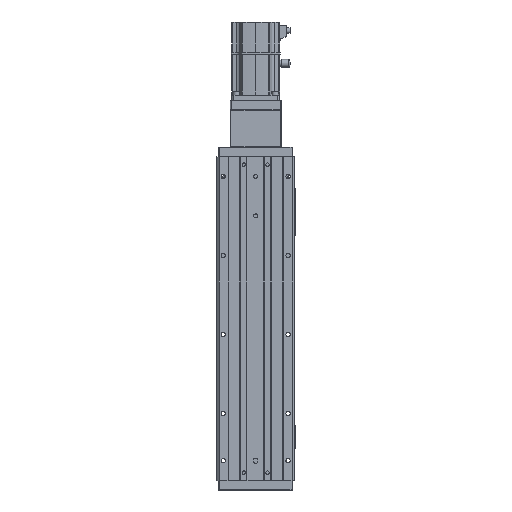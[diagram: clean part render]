
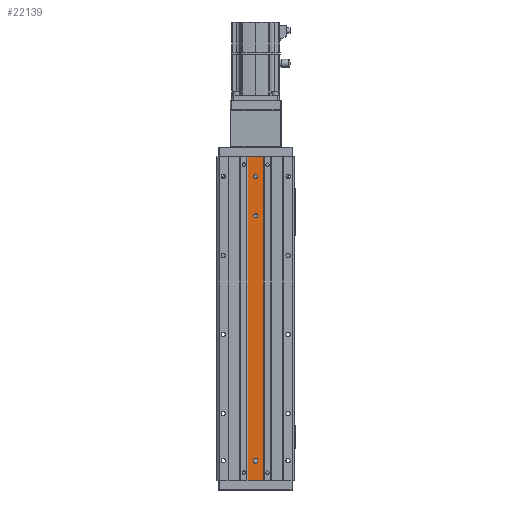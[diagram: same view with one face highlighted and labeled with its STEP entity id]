
A CAD part, front view. The second image highlights one B-rep face of the part: STEP entity #22139.
In plain terms, the highlighted planar face has unit normal (0, -1, 0).
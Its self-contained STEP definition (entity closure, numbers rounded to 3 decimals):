
#189 = AXIS2_PLACEMENT_3D ( 'NONE', #43877, #13458, #26986 ) ;
#298 = DIRECTION ( 'NONE',  ( 1., 0., 0. ) ) ;
#621 = EDGE_CURVE ( 'NONE', #31434, #11686, #38518, .T. ) ;
#899 = DIRECTION ( 'NONE',  ( -1., 0., 0. ) ) ;
#1019 = CARTESIAN_POINT ( 'NONE',  ( -2.5, 1., -179. ) ) ;
#1500 = EDGE_CURVE ( 'NONE', #39901, #11067, #28931, .T. ) ;
#1785 = CARTESIAN_POINT ( 'NONE',  ( 2.5, 1., -179. ) ) ;
#2295 = AXIS2_PLACEMENT_3D ( 'NONE', #20855, #34393, #3985 ) ;
#3206 = LINE ( 'NONE', #16747, #14287 ) ;
#3734 = ORIENTED_EDGE ( 'NONE', *, *, #16404, .T. ) ;
#3856 = CARTESIAN_POINT ( 'NONE',  ( -10., 1., -205. ) ) ;
#3985 = DIRECTION ( 'NONE',  ( 1., 0., 0. ) ) ;
#4248 = PLANE ( 'NONE',  #30568 ) ;
#4753 = ORIENTED_EDGE ( 'NONE', *, *, #38883, .F. ) ;
#5114 = DIRECTION ( 'NONE',  ( 0., -1., 0. ) ) ;
#6682 = EDGE_CURVE ( 'NONE', #27302, #13257, #24996, .T. ) ;
#7574 = FACE_BOUND ( 'NONE', #16453, .T. ) ;
#8722 = ORIENTED_EDGE ( 'NONE', *, *, #621, .F. ) ;
#9031 = CIRCLE ( 'NONE', #33830, 2.5 ) ;
#9937 = EDGE_CURVE ( 'NONE', #10236, #29854, #9031, .T. ) ;
#9997 = CARTESIAN_POINT ( 'NONE',  ( -2.5, 1., -181. ) ) ;
#10160 = ORIENTED_EDGE ( 'NONE', *, *, #9937, .F. ) ;
#10236 = VERTEX_POINT ( 'NONE', #36465 ) ;
#10559 = LINE ( 'NONE', #24082, #18317 ) ;
#11067 = VERTEX_POINT ( 'NONE', #35501 ) ;
#11686 = VERTEX_POINT ( 'NONE', #15405 ) ;
#11717 = ORIENTED_EDGE ( 'NONE', *, *, #1500, .T. ) ;
#11973 = CARTESIAN_POINT ( 'NONE',  ( 0., 1., 130. ) ) ;
#12087 = DIRECTION ( 'NONE',  ( 0., 0., 1. ) ) ;
#12122 = CARTESIAN_POINT ( 'NONE',  ( -10., 1., 205. ) ) ;
#13257 = VERTEX_POINT ( 'NONE', #34712 ) ;
#13439 = ORIENTED_EDGE ( 'NONE', *, *, #17443, .F. ) ;
#13458 = DIRECTION ( 'NONE',  ( 0., -1., 0. ) ) ;
#13641 = VECTOR ( 'NONE', #41529, 1000. ) ;
#14287 = VECTOR ( 'NONE', #30279, 1000. ) ;
#14440 = LINE ( 'NONE', #27956, #13641 ) ;
#14524 = CARTESIAN_POINT ( 'NONE',  ( 0., 1., -181. ) ) ;
#14562 = DIRECTION ( 'NONE',  ( 0., 0., -1. ) ) ;
#14837 = EDGE_CURVE ( 'NONE', #11686, #17325, #31439, .T. ) ;
#15005 = ORIENTED_EDGE ( 'NONE', *, *, #28151, .F. ) ;
#15405 = CARTESIAN_POINT ( 'NONE',  ( -2.5, 1., -179. ) ) ;
#16404 = EDGE_CURVE ( 'NONE', #11067, #34587, #3206, .T. ) ;
#16453 = EDGE_LOOP ( 'NONE', ( #26224, #10160 ) ) ;
#16747 = CARTESIAN_POINT ( 'NONE',  ( -10., 1., 205. ) ) ;
#17189 = CARTESIAN_POINT ( 'NONE',  ( 0., 1., 130. ) ) ;
#17325 = VERTEX_POINT ( 'NONE', #9997 ) ;
#17393 = DIRECTION ( 'NONE',  ( -1., 0., 0. ) ) ;
#17443 = EDGE_CURVE ( 'NONE', #13257, #27302, #21460, .T. ) ;
#17782 = CARTESIAN_POINT ( 'NONE',  ( -10., 1., -205. ) ) ;
#18317 = VECTOR ( 'NONE', #37625, 1000. ) ;
#18663 = DIRECTION ( 'NONE',  ( 1., 0., 0. ) ) ;
#19353 = ORIENTED_EDGE ( 'NONE', *, *, #6682, .F. ) ;
#20855 = CARTESIAN_POINT ( 'NONE',  ( 0., 1., 180. ) ) ;
#20876 = ORIENTED_EDGE ( 'NONE', *, *, #14837, .F. ) ;
#21109 = FACE_BOUND ( 'NONE', #33047, .T. ) ;
#21460 = CIRCLE ( 'NONE', #2295, 2.5 ) ;
#22139 = ADVANCED_FACE ( 'NONE', ( #37979, #7574, #21109, #34661 ), #4248, .F. ) ;
#22260 = EDGE_LOOP ( 'NONE', ( #13439, #19353 ) ) ;
#22461 = AXIS2_PLACEMENT_3D ( 'NONE', #14524, #28045, #41627 ) ;
#23898 = CIRCLE ( 'NONE', #29556, 2.5 ) ;
#24082 = CARTESIAN_POINT ( 'NONE',  ( -10., 1., -205. ) ) ;
#24240 = ORIENTED_EDGE ( 'NONE', *, *, #32536, .F. ) ;
#24277 = AXIS2_PLACEMENT_3D ( 'NONE', #35528, #5114, #18663 ) ;
#24996 = CIRCLE ( 'NONE', #24277, 2.5 ) ;
#25511 = DIRECTION ( 'NONE',  ( 0., -1., 0. ) ) ;
#26224 = ORIENTED_EDGE ( 'NONE', *, *, #27440, .F. ) ;
#26232 = ORIENTED_EDGE ( 'NONE', *, *, #41450, .F. ) ;
#26986 = DIRECTION ( 'NONE',  ( 1., 0., 0. ) ) ;
#27302 = VERTEX_POINT ( 'NONE', #41756 ) ;
#27440 = EDGE_CURVE ( 'NONE', #29854, #10236, #23898, .T. ) ;
#27956 = CARTESIAN_POINT ( 'NONE',  ( 2.5, 1., -179. ) ) ;
#28045 = DIRECTION ( 'NONE',  ( 0., -1., 0. ) ) ;
#28151 = EDGE_CURVE ( 'NONE', #42122, #34587, #10559, .T. ) ;
#28931 = LINE ( 'NONE', #42516, #35990 ) ;
#29556 = AXIS2_PLACEMENT_3D ( 'NONE', #11973, #25511, #39061 ) ;
#29854 = VERTEX_POINT ( 'NONE', #40671 ) ;
#30279 = DIRECTION ( 'NONE',  ( -1., 0., 0. ) ) ;
#30568 = AXIS2_PLACEMENT_3D ( 'NONE', #17782, #31315, #899 ) ;
#30718 = DIRECTION ( 'NONE',  ( 0., -1., 0. ) ) ;
#31315 = DIRECTION ( 'NONE',  ( 0., 1., 0. ) ) ;
#31434 = VERTEX_POINT ( 'NONE', #1785 ) ;
#31439 = LINE ( 'NONE', #1019, #34011 ) ;
#32536 = EDGE_CURVE ( 'NONE', #17325, #39137, #41632, .T. ) ;
#33047 = EDGE_LOOP ( 'NONE', ( #20876, #8722, #4753, #24240 ) ) ;
#33830 = AXIS2_PLACEMENT_3D ( 'NONE', #17189, #30718, #298 ) ;
#34011 = VECTOR ( 'NONE', #14562, 1000. ) ;
#34274 = LINE ( 'NONE', #3856, #37825 ) ;
#34393 = DIRECTION ( 'NONE',  ( 0., -1., 0. ) ) ;
#34587 = VERTEX_POINT ( 'NONE', #12122 ) ;
#34661 = FACE_OUTER_BOUND ( 'NONE', #38344, .T. ) ;
#34712 = CARTESIAN_POINT ( 'NONE',  ( 2.5, 1., 180. ) ) ;
#35425 = CARTESIAN_POINT ( 'NONE',  ( 10., 1., -205. ) ) ;
#35501 = CARTESIAN_POINT ( 'NONE',  ( 10., 1., 205. ) ) ;
#35528 = CARTESIAN_POINT ( 'NONE',  ( 0., 1., 180. ) ) ;
#35990 = VECTOR ( 'NONE', #12087, 1000. ) ;
#36465 = CARTESIAN_POINT ( 'NONE',  ( -2.5, 1., 130. ) ) ;
#37625 = DIRECTION ( 'NONE',  ( 0., 0., 1. ) ) ;
#37825 = VECTOR ( 'NONE', #17393, 1000. ) ;
#37979 = FACE_BOUND ( 'NONE', #22260, .T. ) ;
#38344 = EDGE_LOOP ( 'NONE', ( #3734, #15005, #26232, #11717 ) ) ;
#38518 = CIRCLE ( 'NONE', #189, 2.5 ) ;
#38883 = EDGE_CURVE ( 'NONE', #39137, #31434, #14440, .T. ) ;
#39061 = DIRECTION ( 'NONE',  ( 1., 0., 0. ) ) ;
#39137 = VERTEX_POINT ( 'NONE', #39941 ) ;
#39901 = VERTEX_POINT ( 'NONE', #35425 ) ;
#39941 = CARTESIAN_POINT ( 'NONE',  ( 2.5, 1., -181. ) ) ;
#40671 = CARTESIAN_POINT ( 'NONE',  ( 2.5, 1., 130. ) ) ;
#41450 = EDGE_CURVE ( 'NONE', #39901, #42122, #34274, .T. ) ;
#41529 = DIRECTION ( 'NONE',  ( 0., 0., 1. ) ) ;
#41627 = DIRECTION ( 'NONE',  ( 1., 0., 0. ) ) ;
#41632 = CIRCLE ( 'NONE', #22461, 2.5 ) ;
#41756 = CARTESIAN_POINT ( 'NONE',  ( -2.5, 1., 180. ) ) ;
#41910 = CARTESIAN_POINT ( 'NONE',  ( -10., 1., -205. ) ) ;
#42122 = VERTEX_POINT ( 'NONE', #41910 ) ;
#42516 = CARTESIAN_POINT ( 'NONE',  ( 10., 1., -205. ) ) ;
#43877 = CARTESIAN_POINT ( 'NONE',  ( 0., 1., -179. ) ) ;
